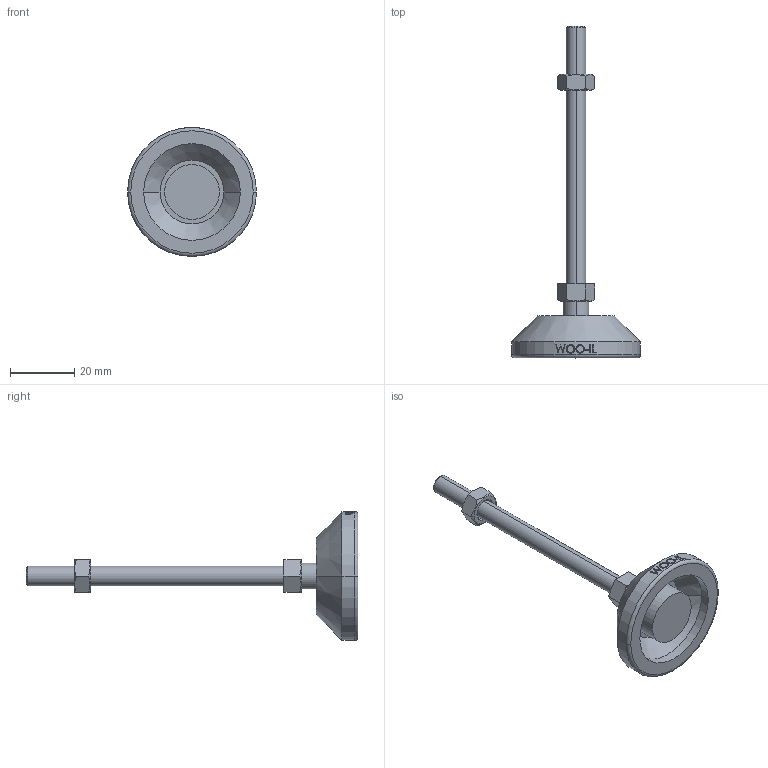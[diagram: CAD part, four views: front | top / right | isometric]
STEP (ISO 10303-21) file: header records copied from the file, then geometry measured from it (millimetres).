
FILE_DESCRIPTION (( 'STEP AP214' ), '1' );
FILE_NAME ('PL40-M6-80.step', '2021-03-05T05:04:27', ( '' ), ( '' ), 'SwSTEP 2.0', 'SolidWorks 2019', '' );
FILE_SCHEMA (( 'AUTOMOTIVE_DESIGN' ));
Length unit declared in the file: millimetre
Products named in the file (2): PL40-M6-80
Bounding box: 40 x 103 x 40 mm (x, y, z)
Volume: 13938 mm3; surface area: 6922 mm2
Topology: 3 solids, 3 shells, 104 faces, 246 edges, 158 vertices
Faces by surface type: plane 48, cylinder 20, cone 16, bspline 16, sphere 2, torus 2
Entity records: 4196 total; most frequent: CARTESIAN_POINT 1882, ORIENTED_EDGE 482, DIRECTION 427, EDGE_CURVE 241, AXIS2_PLACEMENT_3D 162, VERTEX_POINT 155, EDGE_LOOP 118, ADVANCED_FACE 104
